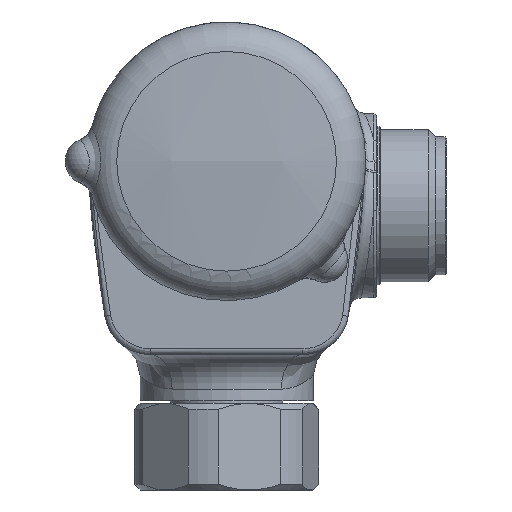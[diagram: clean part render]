
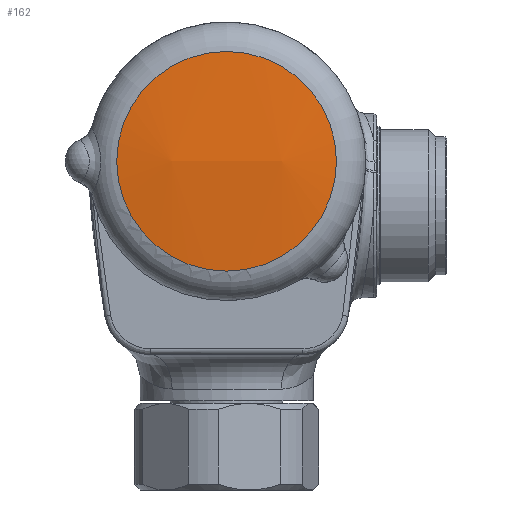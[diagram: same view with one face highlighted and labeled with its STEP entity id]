
A CAD part, left-side view. The second image highlights one B-rep face of the part: STEP entity #162.
In plain terms, the highlighted spherical face has radius 130 mm.
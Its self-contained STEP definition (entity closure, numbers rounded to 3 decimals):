
#162 = ADVANCED_FACE ( 'NONE', ( #9462 ), #9407, .T. ) ;
#246 = CARTESIAN_POINT ( 'NONE',  ( -143.646, -19.051, 57. ) ) ;
#1530 = AXIS2_PLACEMENT_3D ( 'NONE', #5230, #5589, #5229 ) ;
#2392 = CARTESIAN_POINT ( 'NONE',  ( -143.646, 0., 57. ) ) ;
#3174 = DIRECTION ( 'NONE',  ( 0., -1., 0. ) ) ;
#3818 = VERTEX_POINT ( 'NONE', #246 ) ;
#4178 = EDGE_CURVE ( 'NONE', #3818, #3818, #6923, .T. ) ;
#5229 = DIRECTION ( 'NONE',  ( 0., -1., 0. ) ) ;
#5230 = CARTESIAN_POINT ( 'NONE',  ( -15.049, 0., 57. ) ) ;
#5589 = DIRECTION ( 'NONE',  ( 0., 0., -1. ) ) ;
#6326 = EDGE_LOOP ( 'NONE', ( #9631 ) ) ;
#6923 = CIRCLE ( 'NONE', #8442, 19.051 ) ;
#8314 = DIRECTION ( 'NONE',  ( -1., 0., 0. ) ) ;
#8442 = AXIS2_PLACEMENT_3D ( 'NONE', #2392, #8314, #3174 ) ;
#9407 = SPHERICAL_SURFACE ( 'NONE', #1530, 130. ) ;
#9462 = FACE_OUTER_BOUND ( 'NONE', #6326, .T. ) ;
#9631 = ORIENTED_EDGE ( 'NONE', *, *, #4178, .T. ) ;
